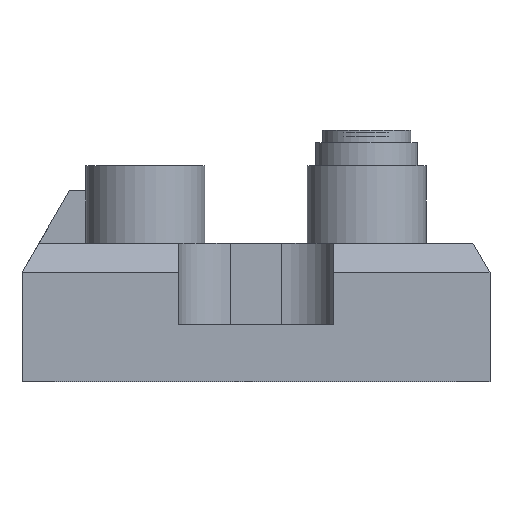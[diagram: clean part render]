
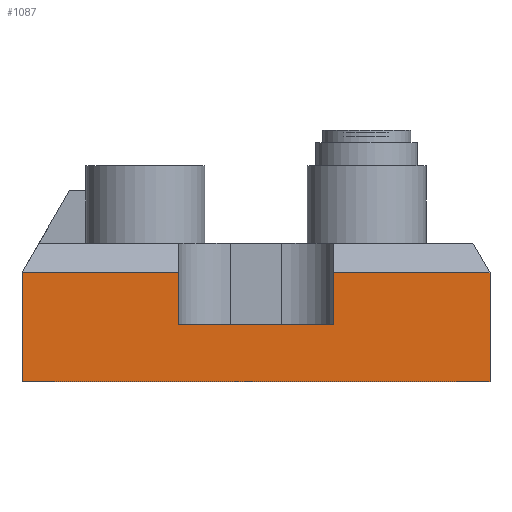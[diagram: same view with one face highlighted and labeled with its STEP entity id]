
A CAD part, front view. The second image highlights one B-rep face of the part: STEP entity #1087.
In plain terms, the highlighted planar face has unit normal (0, -1, 0).
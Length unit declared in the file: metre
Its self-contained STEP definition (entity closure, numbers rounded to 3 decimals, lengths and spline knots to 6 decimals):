
#1016=CARTESIAN_POINT($,(0.0275,-0.0465,0.008));
#1017=DIRECTION($,(0.,-1.,0.));
#1018=DIRECTION($,(0.,0.,-1.));
#1019=AXIS2_PLACEMENT_3D($,#1016,#1017,#1018);
#1020=PLANE($,#1019);
#1021=DIRECTION($,(0.,0.,1.));
#1022=CARTESIAN_POINT($,(-0.0091,-0.0465,-0.0016));
#1023=VECTOR($,#1021,0.006136);
#1024=LINE($,#1022,#1023);
#1025=CARTESIAN_POINT($,(-0.0091,-0.0465,-0.0016));
#1026=VERTEX_POINT($,#1025);
#1027=CARTESIAN_POINT($,(-0.0091,-0.0465,0.004536));
#1028=VERTEX_POINT($,#1027);
#1029=EDGE_CURVE($,#1026,#1028,#1024,.T.);
#1030=ORIENTED_EDGE($,*,*,#1029,.T.);
#1031=DIRECTION($,(-1.,0.,0.));
#1032=CARTESIAN_POINT($,(-0.0255,-0.0465,0.004536));
#1033=VECTOR($,#1031,0.0184);
#1034=LINE($,#1032,#1033);
#1035=CARTESIAN_POINT($,(-0.0275,-0.0465,0.004536));
#1036=VERTEX_POINT($,#1035);
#1037=EDGE_CURVE($,#1028,#1036,#1034,.T.);
#1038=ORIENTED_EDGE($,*,*,#1037,.T.);
#1039=DIRECTION($,(0.,0.,-1.));
#1040=CARTESIAN_POINT($,(-0.0275,-0.0465,0.008));
#1041=VECTOR($,#1039,0.012836);
#1042=LINE($,#1040,#1041);
#1043=CARTESIAN_POINT($,(-0.0275,-0.0465,-0.0083));
#1044=VERTEX_POINT($,#1043);
#1045=EDGE_CURVE($,#1036,#1044,#1042,.T.);
#1046=ORIENTED_EDGE($,*,*,#1045,.T.);
#1047=DIRECTION($,(-1.,0.,0.));
#1048=CARTESIAN_POINT($,(0.0275,-0.0465,-0.0083));
#1049=VECTOR($,#1047,0.055);
#1050=LINE($,#1048,#1049);
#1051=CARTESIAN_POINT($,(0.0275,-0.0465,-0.0083));
#1052=VERTEX_POINT($,#1051);
#1053=EDGE_CURVE($,#1052,#1044,#1050,.T.);
#1054=ORIENTED_EDGE($,*,*,#1053,.F.);
#1055=DIRECTION($,(0.,0.,-1.));
#1056=CARTESIAN_POINT($,(0.0275,-0.0465,0.008));
#1057=VECTOR($,#1055,0.012836);
#1058=LINE($,#1056,#1057);
#1059=CARTESIAN_POINT($,(0.0275,-0.0465,0.004536));
#1060=VERTEX_POINT($,#1059);
#1061=EDGE_CURVE($,#1060,#1052,#1058,.T.);
#1062=ORIENTED_EDGE($,*,*,#1061,.F.);
#1063=DIRECTION($,(-1.,0.,0.));
#1064=CARTESIAN_POINT($,(0.0091,-0.0465,0.004536));
#1065=VECTOR($,#1063,0.0184);
#1066=LINE($,#1064,#1065);
#1067=CARTESIAN_POINT($,(0.0091,-0.0465,0.004536));
#1068=VERTEX_POINT($,#1067);
#1069=EDGE_CURVE($,#1060,#1068,#1066,.T.);
#1070=ORIENTED_EDGE($,*,*,#1069,.T.);
#1071=DIRECTION($,(0.,0.,1.));
#1072=CARTESIAN_POINT($,(0.0091,-0.0465,-0.0016));
#1073=VECTOR($,#1071,0.006136);
#1074=LINE($,#1072,#1073);
#1075=CARTESIAN_POINT($,(0.0091,-0.0465,-0.0016));
#1076=VERTEX_POINT($,#1075);
#1077=EDGE_CURVE($,#1076,#1068,#1074,.T.);
#1078=ORIENTED_EDGE($,*,*,#1077,.F.);
#1079=DIRECTION($,(1.,0.,0.));
#1080=CARTESIAN_POINT($,(-0.0091,-0.0465,-0.0016));
#1081=VECTOR($,#1079,0.0182);
#1082=LINE($,#1080,#1081);
#1083=EDGE_CURVE($,#1026,#1076,#1082,.T.);
#1084=ORIENTED_EDGE($,*,*,#1083,.F.);
#1085=EDGE_LOOP($,(#1030,#1038,#1046,#1054,#1062,#1070,#1078,#1084));
#1086=FACE_OUTER_BOUND($,#1085,.T.);
#1087=ADVANCED_FACE($,(#1086),#1020,.T.);
